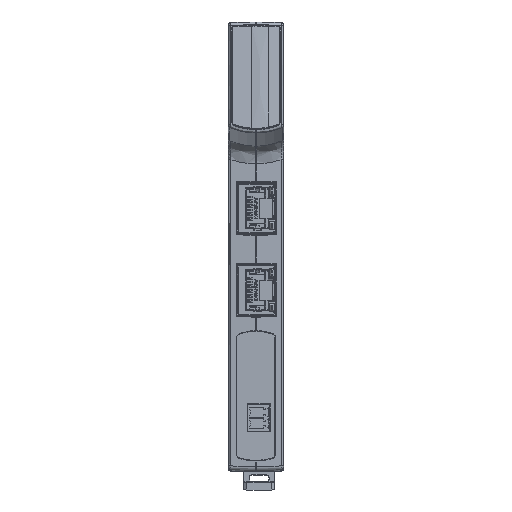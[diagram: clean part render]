
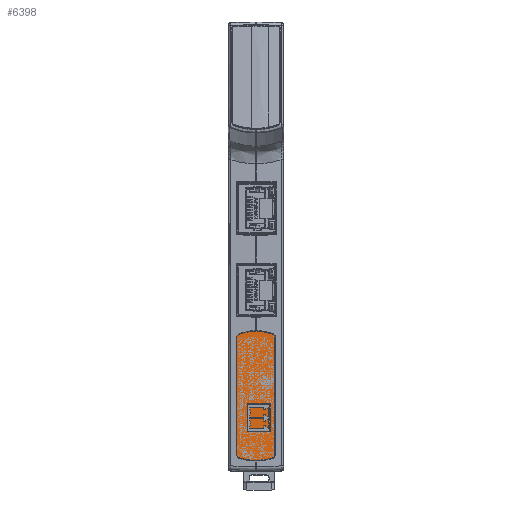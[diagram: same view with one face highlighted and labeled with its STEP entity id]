
A CAD part, top view. The second image highlights one B-rep face of the part: STEP entity #6398.
In plain terms, the highlighted planar face has unit normal (0, 0, 1).
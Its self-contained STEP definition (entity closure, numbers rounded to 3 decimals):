
#6398=ADVANCED_FACE('',(#12964),#112314,.T.);
#12964=FACE_OUTER_BOUND('',#19860,.T.);
#19860=EDGE_LOOP('',(#54217,#54218,#54219,#54220,#54221,#54222,#54223,#54224));
#54217=ORIENTED_EDGE('',*,*,#74992,.F.);
#54218=ORIENTED_EDGE('',*,*,#74996,.F.);
#54219=ORIENTED_EDGE('',*,*,#74999,.F.);
#54220=ORIENTED_EDGE('',*,*,#75002,.F.);
#54221=ORIENTED_EDGE('',*,*,#75005,.F.);
#54222=ORIENTED_EDGE('',*,*,#75008,.F.);
#54223=ORIENTED_EDGE('',*,*,#75011,.F.);
#54224=ORIENTED_EDGE('',*,*,#75012,.T.);
#74992=EDGE_CURVE('',#106790,#106791,#79263,.T.);
#74996=EDGE_CURVE('',#106793,#106790,#79265,.T.);
#74999=EDGE_CURVE('',#106795,#106793,#79267,.T.);
#75002=EDGE_CURVE('',#106797,#106795,#94338,.T.);
#75005=EDGE_CURVE('',#106799,#106797,#79269,.T.);
#75008=EDGE_CURVE('',#106801,#106799,#79271,.T.);
#75011=EDGE_CURVE('',#106803,#106801,#79273,.T.);
#75012=EDGE_CURVE('',#106803,#106791,#94342,.T.);
#79263=(
BOUNDED_CURVE()
B_SPLINE_CURVE(2,(#239213,#239214,#239215),.UNSPECIFIED.,.F.,.F.)
B_SPLINE_CURVE_WITH_KNOTS((3,3),(-1.047,0.),.UNSPECIFIED.)
CURVE()
GEOMETRIC_REPRESENTATION_ITEM()
RATIONAL_B_SPLINE_CURVE((1.,0.809,1.))
REPRESENTATION_ITEM('')
);
#79265=(
BOUNDED_CURVE()
B_SPLINE_CURVE(2,(#239223,#239224,#239225),.UNSPECIFIED.,.F.,.F.)
B_SPLINE_CURVE_WITH_KNOTS((3,3),(-10.875,0.),.UNSPECIFIED.)
CURVE()
GEOMETRIC_REPRESENTATION_ITEM()
RATIONAL_B_SPLINE_CURVE((1.,0.951,1.))
REPRESENTATION_ITEM('')
);
#79267=(
BOUNDED_CURVE()
B_SPLINE_CURVE(2,(#239231,#239232,#239233),.UNSPECIFIED.,.F.,.F.)
B_SPLINE_CURVE_WITH_KNOTS((3,3),(-1.047,0.),.UNSPECIFIED.)
CURVE()
GEOMETRIC_REPRESENTATION_ITEM()
RATIONAL_B_SPLINE_CURVE((1.,0.809,1.))
REPRESENTATION_ITEM('')
);
#79269=(
BOUNDED_CURVE()
B_SPLINE_CURVE(2,(#239245,#239246,#239247),.UNSPECIFIED.,.F.,.F.)
B_SPLINE_CURVE_WITH_KNOTS((3,3),(-0.988,0.),.UNSPECIFIED.)
CURVE()
GEOMETRIC_REPRESENTATION_ITEM()
RATIONAL_B_SPLINE_CURVE((1.,0.83,1.))
REPRESENTATION_ITEM('')
);
#79271=(
BOUNDED_CURVE()
B_SPLINE_CURVE(2,(#239253,#239254,#239255),.UNSPECIFIED.,.F.,.F.)
B_SPLINE_CURVE_WITH_KNOTS((3,3),(-11.065,0.),.UNSPECIFIED.)
CURVE()
GEOMETRIC_REPRESENTATION_ITEM()
RATIONAL_B_SPLINE_CURVE((1.,0.928,1.))
REPRESENTATION_ITEM('')
);
#79273=(
BOUNDED_CURVE()
B_SPLINE_CURVE(2,(#239261,#239262,#239263),.UNSPECIFIED.,.F.,.F.)
B_SPLINE_CURVE_WITH_KNOTS((3,3),(-0.996,0.),.UNSPECIFIED.)
CURVE()
GEOMETRIC_REPRESENTATION_ITEM()
RATIONAL_B_SPLINE_CURVE((1.,0.827,1.))
REPRESENTATION_ITEM('')
);
#94338=B_SPLINE_CURVE_WITH_KNOTS('',1,(#239238,#239239),.UNSPECIFIED.,.F.,
 .F.,(2,2),(-36.808,0.),.UNSPECIFIED.);
#94342=B_SPLINE_CURVE_WITH_KNOTS('',1,(#239264,#239265),.UNSPECIFIED.,.F.,
 .F.,(2,2),(0.,36.853),.UNSPECIFIED.);
#106790=VERTEX_POINT('',#239178);
#106791=VERTEX_POINT('',#239179);
#106793=VERTEX_POINT('',#239181);
#106795=VERTEX_POINT('',#239183);
#106797=VERTEX_POINT('',#239185);
#106799=VERTEX_POINT('',#239187);
#106801=VERTEX_POINT('',#239189);
#106803=VERTEX_POINT('',#239191);
#112314=PLANE('',#118696);
#118696=AXIS2_PLACEMENT_3D('',#239063,#123388,$);
#123388=DIRECTION('',(0.,0.,1.));
#239063=CARTESIAN_POINT('',(-7.367,4.816,-18.1));
#239178=CARTESIAN_POINT('',(-5.606,10.796,-18.1));
#239179=CARTESIAN_POINT('',(-6.182,11.589,-18.1));
#239181=CARTESIAN_POINT('',(5.089,10.796,-18.1));
#239183=CARTESIAN_POINT('',(5.664,11.589,-18.1));
#239185=CARTESIAN_POINT('',(5.664,48.397,-18.1));
#239187=CARTESIAN_POINT('',(5.144,49.17,-18.1));
#239189=CARTESIAN_POINT('',(-5.655,49.218,-18.1));
#239191=CARTESIAN_POINT('',(-6.182,48.442,-18.1));
#239213=CARTESIAN_POINT('',(-5.606,10.796,-18.1));
#239214=CARTESIAN_POINT('',(-6.182,10.984,-18.1));
#239215=CARTESIAN_POINT('',(-6.182,11.589,-18.1));
#239223=CARTESIAN_POINT('',(5.089,10.796,-18.1));
#239224=CARTESIAN_POINT('',(-0.259,9.049,-18.1));
#239225=CARTESIAN_POINT('',(-5.606,10.796,-18.1));
#239231=CARTESIAN_POINT('',(5.664,11.589,-18.1));
#239232=CARTESIAN_POINT('',(5.664,10.984,-18.1));
#239233=CARTESIAN_POINT('',(5.089,10.796,-18.1));
#239238=CARTESIAN_POINT('',(5.664,48.397,-18.1));
#239239=CARTESIAN_POINT('',(5.664,11.589,-18.1));
#239245=CARTESIAN_POINT('',(5.144,49.17,-18.1));
#239246=CARTESIAN_POINT('',(5.664,48.958,-18.1));
#239247=CARTESIAN_POINT('',(5.664,48.397,-18.1));
#239253=CARTESIAN_POINT('',(-5.655,49.218,-18.1));
#239254=CARTESIAN_POINT('',(-0.246,51.361,-18.1));
#239255=CARTESIAN_POINT('',(5.144,49.17,-18.1));
#239261=CARTESIAN_POINT('',(-6.182,48.442,-18.1));
#239262=CARTESIAN_POINT('',(-6.182,49.009,-18.1));
#239263=CARTESIAN_POINT('',(-5.655,49.218,-18.1));
#239264=CARTESIAN_POINT('',(-6.182,48.442,-18.1));
#239265=CARTESIAN_POINT('',(-6.182,11.589,-18.1));
